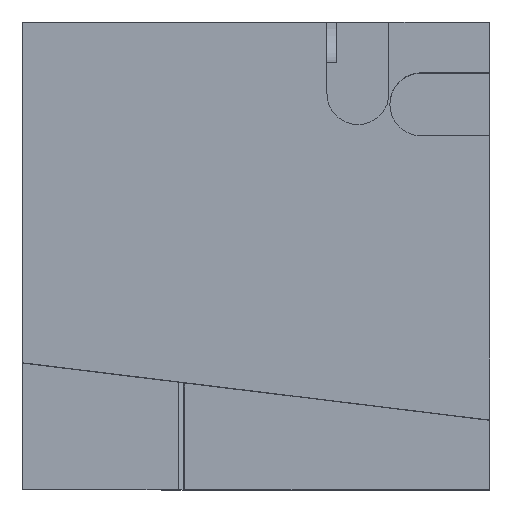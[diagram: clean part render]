
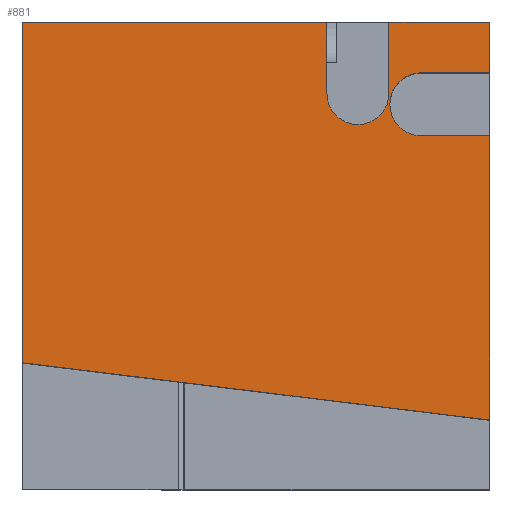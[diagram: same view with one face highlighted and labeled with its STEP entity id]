
A CAD part, top view. The second image highlights one B-rep face of the part: STEP entity #881.
In plain terms, the highlighted planar face has unit normal (0, 0, 1).
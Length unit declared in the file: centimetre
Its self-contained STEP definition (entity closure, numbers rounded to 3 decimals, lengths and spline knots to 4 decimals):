
#25 = CARTESIAN_POINT ( 'NONE',  ( 0., 1000., 1000. ) ) ;
#26 = EDGE_CURVE ( 'NONE', #130, #481, #1112, .T. ) ;
#74 = EDGE_CURVE ( 'NONE', #1329, #621, #1252, .T. ) ;
#83 = VERTEX_POINT ( 'NONE', #1127 ) ;
#84 = AXIS2_PLACEMENT_3D ( 'NONE', #1039, #578, #1056 ) ;
#86 = VECTOR ( 'NONE', #390, 100. ) ;
#87 = VERTEX_POINT ( 'NONE', #1016 ) ;
#93 = EDGE_CURVE ( 'NONE', #258, #1463, #179, .T. ) ;
#106 = ORIENTED_EDGE ( 'NONE', *, *, #93, .F. ) ;
#130 = VERTEX_POINT ( 'NONE', #1149 ) ;
#135 = DIRECTION ( 'NONE',  ( 0., 1., 0. ) ) ;
#179 = LINE ( 'NONE', #1277, #1522 ) ;
#225 = VECTOR ( 'NONE', #1507, 100. ) ;
#250 = VECTOR ( 'NONE', #1481, 100. ) ;
#252 = EDGE_CURVE ( 'NONE', #83, #621, #460, .T. ) ;
#254 = CARTESIAN_POINT ( 'NONE',  ( 0., 1000., 1000. ) ) ;
#256 = ORIENTED_EDGE ( 'NONE', *, *, #74, .F. ) ;
#258 = VERTEX_POINT ( 'NONE', #474 ) ;
#296 = VECTOR ( 'NONE', #453, 100. ) ;
#306 = PLANE ( 'NONE',  #84 ) ;
#321 = DIRECTION ( 'NONE',  ( 0., 0., 1. ) ) ;
#334 = ORIENTED_EDGE ( 'NONE', *, *, #811, .F. ) ;
#390 = DIRECTION ( 'NONE',  ( -1., 0., 0. ) ) ;
#453 = DIRECTION ( 'NONE',  ( 0., -1., 0. ) ) ;
#460 = LINE ( 'NONE', #573, #1241 ) ;
#474 = CARTESIAN_POINT ( 'NONE',  ( 1000., 148.1643, 1000. ) ) ;
#481 = VERTEX_POINT ( 'NONE', #254 ) ;
#539 = EDGE_CURVE ( 'NONE', #1212, #1130, #630, .T. ) ;
#573 = CARTESIAN_POINT ( 'NONE',  ( 0., 1000., 1000. ) ) ;
#578 = DIRECTION ( 'NONE',  ( 0., 0., 1. ) ) ;
#583 = CARTESIAN_POINT ( 'NONE',  ( 854.038, 756.4027, 1000. ) ) ;
#596 = CARTESIAN_POINT ( 'NONE',  ( 854.038, 891.4544, 1000. ) ) ;
#621 = VERTEX_POINT ( 'NONE', #1119 ) ;
#630 = LINE ( 'NONE', #1492, #984 ) ;
#637 = EDGE_CURVE ( 'NONE', #1580, #87, #1367, .T. ) ;
#651 = DIRECTION ( 'NONE',  ( -1., 0., 0. ) ) ;
#656 = ORIENTED_EDGE ( 'NONE', *, *, #1165, .T. ) ;
#696 = ORIENTED_EDGE ( 'NONE', *, *, #539, .F. ) ;
#700 = VECTOR ( 'NONE', #955, 100. ) ;
#706 = ORIENTED_EDGE ( 'NONE', *, *, #1449, .F. ) ;
#718 = DIRECTION ( 'NONE',  ( 0., 0., 1. ) ) ;
#770 = DIRECTION ( 'NONE',  ( -0.993, 0.122, 0. ) ) ;
#773 = VECTOR ( 'NONE', #1477, 100. ) ;
#775 = ORIENTED_EDGE ( 'NONE', *, *, #1108, .F. ) ;
#806 = CARTESIAN_POINT ( 'NONE',  ( 651.7994, 846.9432, 1000. ) ) ;
#811 = EDGE_CURVE ( 'NONE', #816, #1329, #958, .T. ) ;
#816 = VERTEX_POINT ( 'NONE', #806 ) ;
#822 = ORIENTED_EDGE ( 'NONE', *, *, #26, .T. ) ;
#881 = ADVANCED_FACE ( 'NONE', ( #941 ), #306, .T. ) ;
#915 = CARTESIAN_POINT ( 'NONE',  ( 784.3688, 1000., 1000. ) ) ;
#941 = FACE_OUTER_BOUND ( 'NONE', #970, .T. ) ;
#942 = ORIENTED_EDGE ( 'NONE', *, *, #637, .F. ) ;
#955 = DIRECTION ( 'NONE',  ( 0., 1., 0. ) ) ;
#958 = CIRCLE ( 'NONE', #1356, 66.2847 ) ;
#970 = EDGE_LOOP ( 'NONE', ( #106, #1070, #942, #775, #696, #1012, #1145, #256, #334, #706, #822, #656 ) ) ;
#984 = VECTOR ( 'NONE', #651, 100. ) ;
#994 = CARTESIAN_POINT ( 'NONE',  ( 854.038, 756.4027, 1000. ) ) ;
#1012 = ORIENTED_EDGE ( 'NONE', *, *, #1308, .T. ) ;
#1016 = CARTESIAN_POINT ( 'NONE',  ( 1000., 756.4027, 1000. ) ) ;
#1017 = CARTESIAN_POINT ( 'NONE',  ( 1000., 1000., 1000. ) ) ;
#1039 = CARTESIAN_POINT ( 'NONE',  ( 0., 0., 1000. ) ) ;
#1046 = LINE ( 'NONE', #1545, #296 ) ;
#1056 = DIRECTION ( 'NONE',  ( 1., 0., 0. ) ) ;
#1064 = EDGE_CURVE ( 'NONE', #258, #87, #1089, .T. ) ;
#1070 = ORIENTED_EDGE ( 'NONE', *, *, #1064, .T. ) ;
#1075 = DIRECTION ( 'NONE',  ( -1., 0., 0. ) ) ;
#1089 = LINE ( 'NONE', #1581, #700 ) ;
#1108 = EDGE_CURVE ( 'NONE', #1130, #1580, #1496, .T. ) ;
#1112 = LINE ( 'NONE', #1487, #86 ) ;
#1119 = CARTESIAN_POINT ( 'NONE',  ( 784.3688, 1000., 1000. ) ) ;
#1127 = CARTESIAN_POINT ( 'NONE',  ( 1000., 1000., 1000. ) ) ;
#1128 = LINE ( 'NONE', #25, #250 ) ;
#1130 = VERTEX_POINT ( 'NONE', #596 ) ;
#1145 = ORIENTED_EDGE ( 'NONE', *, *, #252, .T. ) ;
#1149 = CARTESIAN_POINT ( 'NONE',  ( 651.7994, 1000., 1000. ) ) ;
#1165 = EDGE_CURVE ( 'NONE', #481, #1463, #1128, .T. ) ;
#1196 = CARTESIAN_POINT ( 'NONE',  ( 854.038, 823.9286, 1000. ) ) ;
#1212 = VERTEX_POINT ( 'NONE', #1247 ) ;
#1241 = VECTOR ( 'NONE', #1075, 100. ) ;
#1247 = CARTESIAN_POINT ( 'NONE',  ( 1000., 891.4544, 1000. ) ) ;
#1252 = LINE ( 'NONE', #915, #225 ) ;
#1258 = CARTESIAN_POINT ( 'NONE',  ( 0., 270.7378, 1000. ) ) ;
#1269 = DIRECTION ( 'NONE',  ( -1., 0., 0. ) ) ;
#1277 = CARTESIAN_POINT ( 'NONE',  ( 1000., 148.1643, 1000. ) ) ;
#1308 = EDGE_CURVE ( 'NONE', #1212, #83, #1488, .T. ) ;
#1329 = VERTEX_POINT ( 'NONE', #1472 ) ;
#1356 = AXIS2_PLACEMENT_3D ( 'NONE', #1407, #321, #1269 ) ;
#1367 = LINE ( 'NONE', #994, #773 ) ;
#1381 = AXIS2_PLACEMENT_3D ( 'NONE', #1196, #718, #1556 ) ;
#1407 = CARTESIAN_POINT ( 'NONE',  ( 718.0841, 846.9432, 1000. ) ) ;
#1449 = EDGE_CURVE ( 'NONE', #130, #816, #1046, .T. ) ;
#1463 = VERTEX_POINT ( 'NONE', #1258 ) ;
#1472 = CARTESIAN_POINT ( 'NONE',  ( 784.3688, 846.9432, 1000. ) ) ;
#1477 = DIRECTION ( 'NONE',  ( 1., 0., 0. ) ) ;
#1481 = DIRECTION ( 'NONE',  ( 0., -1., 0. ) ) ;
#1487 = CARTESIAN_POINT ( 'NONE',  ( 0., 1000., 1000. ) ) ;
#1488 = LINE ( 'NONE', #1017, #1549 ) ;
#1492 = CARTESIAN_POINT ( 'NONE',  ( 1000., 891.4544, 1000. ) ) ;
#1496 = CIRCLE ( 'NONE', #1381, 67.5258 ) ;
#1507 = DIRECTION ( 'NONE',  ( 0., 1., 0. ) ) ;
#1522 = VECTOR ( 'NONE', #770, 100. ) ;
#1545 = CARTESIAN_POINT ( 'NONE',  ( 651.7994, 846.9432, 1000. ) ) ;
#1549 = VECTOR ( 'NONE', #135, 100. ) ;
#1556 = DIRECTION ( 'NONE',  ( 1., 0., 0. ) ) ;
#1580 = VERTEX_POINT ( 'NONE', #583 ) ;
#1581 = CARTESIAN_POINT ( 'NONE',  ( 1000., 1000., 1000. ) ) ;
